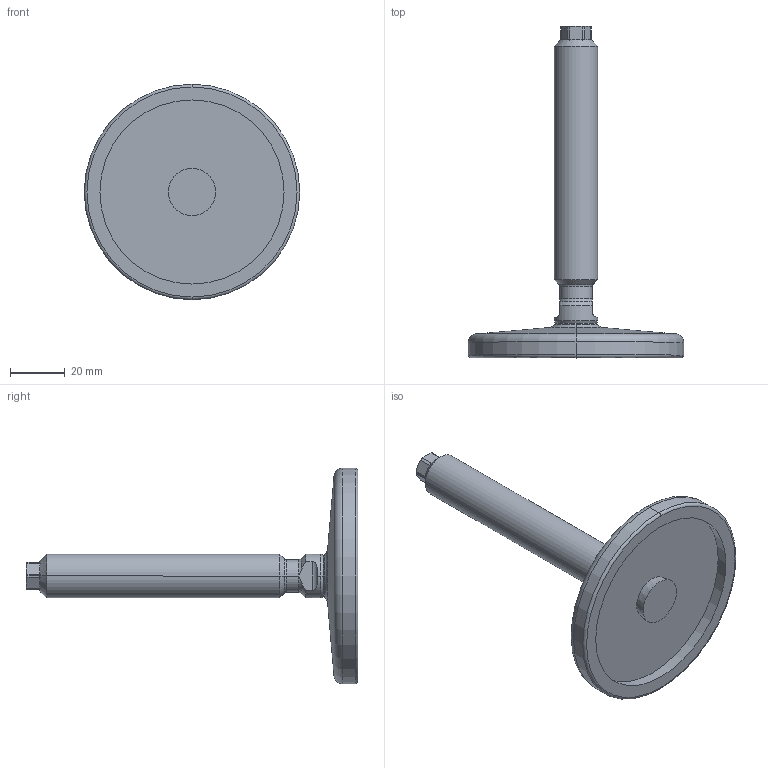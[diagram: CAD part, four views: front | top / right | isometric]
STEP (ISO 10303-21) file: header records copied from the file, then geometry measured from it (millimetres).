
FILE_DESCRIPTION (( 'STEP AP214' ), '1' );
FILE_NAME ('21-80-M16-100-D0-V.step', '2020-10-02T17:35:47', ( '' ), ( '' ), 'SwSTEP 2.0', 'SolidWorks 2019', '' );
FILE_SCHEMA (( 'AUTOMOTIVE_DESIGN' ));
Length unit declared in the file: millimetre
Products named in the file (3): WB21_Fußteller 21^WB21_V_D0-080-R10-B7 (M8 M10_M12_M16); 21-80-M16-100-D0-V; WB21_Spindel_V^WB21_V_M16-100
Assembly tree (2 placements, depth 2):
  21-80-M16-100-D0-V
    WB21_Fußteller 21^WB21_V_D0-080-R10-B7 (M8 M10_M12_M16)
    WB21_Spindel_V^WB21_V_M16-100
Bounding box: 79 x 121.64 x 79 mm (x, y, z)
Volume: 51992.9 mm3; surface area: 18919.9 mm2
Topology: 2 solids, 2 shells, 79 faces, 177 edges, 105 vertices
Faces by surface type: cylinder 23, cone 21, plane 21, torus 10, sphere 4
Entity records: 2438 total; most frequent: CARTESIAN_POINT 522, DIRECTION 406, ORIENTED_EDGE 354, EDGE_CURVE 177, AXIS2_PLACEMENT_3D 173, VERTEX_POINT 105, CIRCLE 89, EDGE_LOOP 82
